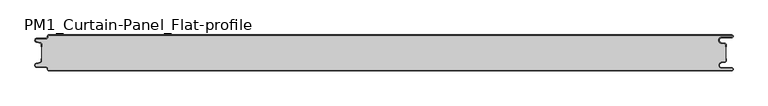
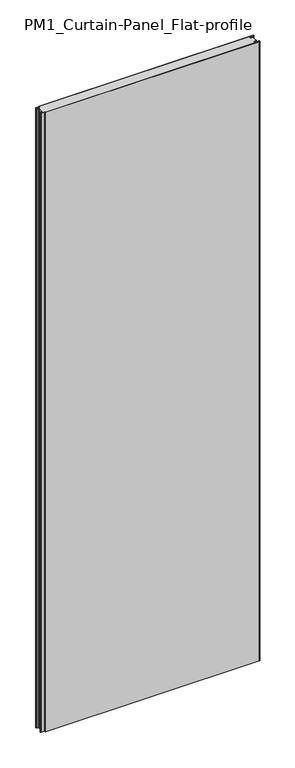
"""IFC4 building model written with IfcOpenShell, lengths in millimetres: plate geometry, PM1_Curtain-Panel_Flat-profile : ACH_PM1_Stone-wool-Panel_60M."""

from ifc_helpers import new_model, si_unit, point, frame_2d, origin, origin_with_axes, place, context, project, spatial, polyline, circle_curve, trimmed, segment, composite_curve, outline, extrude, source, transform, mapped, element, save


def pm1_curtain_panel_flat_profile_ea613ef7(model_context):
    return source(origin(), model_context, "Body", "SweptSolid", [
        extrude(outline(composite_curve([segment(polyline([(-562.4, 0.0), (583.1, 0.0)]), True, "CONTINUOUS"), segment(trimmed(circle_curve(frame_2d((583.1, -2.5)), 2.5), [point((583.1, 0.0))], [point((583.1, -5.0))], False, "CARTESIAN"), True, "CONTINUOUS"), segment(polyline([(583.1, -5.0), (566.1, -5.0)]), True, "CONTINUOUS"), segment(trimmed(circle_curve(frame_2d((566.1, -9.0)), 4.0), [point((566.1, -5.0))], [point((565.4054075, -12.939231))], True, "CARTESIAN"), True, "CONTINUOUS"), segment(polyline([(565.4054075, -12.939231), (571.8514851, -14.075848)]), True, "CONTINUOUS"), segment(trimmed(circle_curve(frame_2d((571.4, -16.636348)), 2.6), [point((571.8514851, -14.075848))], [point((574.0, -16.636348))], False, "CARTESIAN"), True, "CONTINUOUS"), segment(polyline([(574.0, -16.636348), (574.0, -20.0), (573.2, -20.0), (573.2, -16.636348)]), True, "CONTINUOUS"), segment(trimmed(circle_curve(frame_2d((571.4, -16.636348)), 1.8), [point((573.2, -16.636348))], [point((571.7125666, -14.863694))], True, "CARTESIAN"), True, "CONTINUOUS"), segment(polyline([(571.7125666, -14.863694), (565.266489, -13.7270771)]), True, "CONTINUOUS"), segment(trimmed(circle_curve(frame_2d((566.1, -9.0)), 4.8), [point((565.266489, -13.7270771))], [point((566.1, -4.2))], False, "CARTESIAN"), True, "CONTINUOUS"), segment(polyline([(566.1, -4.2), (583.1, -4.2)]), True, "CONTINUOUS"), segment(trimmed(circle_curve(frame_2d((583.1, -2.5)), 1.7), [point((583.1, -4.2))], [point((583.1, -0.8))], True, "CARTESIAN"), True, "CONTINUOUS"), segment(polyline([(583.1, -0.8), (-562.4, -0.8)]), True, "CONTINUOUS"), segment(trimmed(circle_curve(frame_2d((-562.4, -2.0)), 1.2), [point((-562.4, -0.8))], [point((-563.6, -2.0))], True, "CARTESIAN"), True, "CONTINUOUS"), segment(polyline([(-563.6, -2.0), (-563.6, -3.4)]), True, "CONTINUOUS"), segment(trimmed(circle_curve(frame_2d((-566.4, -3.4)), 2.8), [point((-563.6, -3.4))], [point((-566.4, -6.2))], False, "CARTESIAN"), True, "CONTINUOUS"), segment(polyline([(-566.4, -6.2), (-581.9, -6.2)]), True, "CONTINUOUS"), segment(trimmed(circle_curve(frame_2d((-581.9, -9.0)), 2.8), [point((-581.9, -6.2))], [point((-582.529863, -11.7282362))], True, "CARTESIAN"), True, "CONTINUOUS"), segment(polyline([(-582.529863, -11.7282362), (-576.370137, -13.150321)]), True, "CONTINUOUS"), segment(trimmed(circle_curve(frame_2d((-577.0, -15.878557)), 2.8), [point((-576.370137, -13.150321))], [point((-574.2, -15.878557))], False, "CARTESIAN"), True, "CONTINUOUS"), segment(polyline([(-574.2, -15.878557), (-574.2, -20.0), (-575.0, -20.0), (-575.0, -15.878557)]), True, "CONTINUOUS"), segment(trimmed(circle_curve(frame_2d((-577.0, -15.878557)), 2.0), [point((-575.0, -15.878557))], [point((-576.5500978, -13.9298169))], True, "CARTESIAN"), True, "CONTINUOUS"), segment(polyline([(-576.5500978, -13.9298169), (-582.7098239, -12.507732)]), True, "CONTINUOUS"), segment(trimmed(circle_curve(frame_2d((-581.9, -9.0)), 3.6), [point((-582.7098239, -12.507732))], [point((-581.9, -5.4))], False, "CARTESIAN"), True, "CONTINUOUS"), segment(polyline([(-581.9, -5.4), (-566.4, -5.4)]), True, "CONTINUOUS"), segment(trimmed(circle_curve(frame_2d((-566.4, -3.4)), 2.0), [point((-566.4, -5.4))], [point((-564.4, -3.4))], True, "CARTESIAN"), True, "CONTINUOUS"), segment(polyline([(-564.4, -3.4), (-564.4, -2.0)]), True, "CONTINUOUS"), segment(trimmed(circle_curve(frame_2d((-562.4, -2.0)), 2.0), [point((-564.4, -2.0))], [point((-562.4, 0.0))], False, "CARTESIAN"), True, "CONTINUOUS")], self_intersect=False)), origin_with_axes(), (0.0, 0.0, 1.0), 3500.0),
        extrude(outline(composite_curve([segment(polyline([(-574.2, -44.1214426), (-574.2, -15.8785573)]), True, "CONTINUOUS"), segment(trimmed(circle_curve(frame_2d((-577.0, -15.8785573)), 2.8), [point((-574.2, -15.8785573))], [point((-576.370137, -13.1503212))], True, "CARTESIAN"), True, "CONTINUOUS"), segment(polyline([(-576.370137, -13.1503212), (-582.5298631, -11.7282362)]), True, "CONTINUOUS"), segment(trimmed(circle_curve(frame_2d((-581.9, -9.0)), 2.8), [point((-582.5298631, -11.7282362))], [point((-581.9, -6.2))], False, "CARTESIAN"), True, "CONTINUOUS"), segment(polyline([(-581.9, -6.2), (-566.4000001, -6.2)]), True, "CONTINUOUS"), segment(trimmed(circle_curve(frame_2d((-566.4000001, -3.4)), 2.8), [point((-566.4000001, -6.2))], [point((-563.6000001, -3.4))], True, "CARTESIAN"), True, "CONTINUOUS"), segment(polyline([(-563.6000001, -3.4), (-563.6000001, -2.0)]), True, "CONTINUOUS"), segment(trimmed(circle_curve(frame_2d((-562.4000001, -2.0)), 1.2), [point((-563.6000001, -2.0))], [point((-562.4000001, -0.8))], False, "CARTESIAN"), True, "CONTINUOUS"), segment(polyline([(-562.4000001, -0.8), (583.1, -0.8)]), True, "CONTINUOUS"), segment(trimmed(circle_curve(frame_2d((583.1, -2.5)), 1.7), [point((583.1, -0.8))], [point((583.1, -4.2))], False, "CARTESIAN"), True, "CONTINUOUS"), segment(polyline([(583.1, -4.2), (566.1, -4.2)]), True, "CONTINUOUS"), segment(trimmed(circle_curve(frame_2d((566.1, -9.0)), 4.8), [point((566.1, -4.2))], [point((565.2664883, -13.7270771))], True, "CARTESIAN"), True, "CONTINUOUS"), segment(polyline([(565.2664883, -13.7270771), (571.7125668, -14.8636953)]), True, "CONTINUOUS"), segment(trimmed(circle_curve(frame_2d((571.4, -16.6363492)), 1.8), [point((571.7125668, -14.8636953))], [point((573.2, -16.6363492))], False, "CARTESIAN"), True, "CONTINUOUS"), segment(polyline([(573.2, -16.6363492), (573.2, -43.3636508)]), True, "CONTINUOUS"), segment(trimmed(circle_curve(frame_2d((571.4, -43.3636508)), 1.8), [point((573.2, -43.3636508))], [point((571.7125668, -45.1363047))], False, "CARTESIAN"), True, "CONTINUOUS"), segment(polyline([(571.7125668, -45.1363047), (565.2664883, -46.2729229)]), True, "CONTINUOUS"), segment(trimmed(circle_curve(frame_2d((566.1, -51.0)), 4.8), [point((565.2664883, -46.2729229))], [point((566.1, -55.8))], True, "CARTESIAN"), True, "CONTINUOUS"), segment(polyline([(566.1, -55.8), (583.1, -55.8)]), True, "CONTINUOUS"), segment(trimmed(circle_curve(frame_2d((583.1, -57.5)), 1.7), [point((583.1, -55.8))], [point((583.1, -59.2))], False, "CARTESIAN"), True, "CONTINUOUS"), segment(polyline([(583.1, -59.2), (-562.4000001, -59.2)]), True, "CONTINUOUS"), segment(trimmed(circle_curve(frame_2d((-562.4000001, -58.0)), 1.2), [point((-562.4000001, -59.2))], [point((-563.6000001, -58.0))], False, "CARTESIAN"), True, "CONTINUOUS"), segment(polyline([(-563.6000001, -58.0), (-563.6000001, -56.6)]), True, "CONTINUOUS"), segment(trimmed(circle_curve(frame_2d((-566.4000001, -56.6)), 2.8), [point((-563.6000001, -56.6))], [point((-566.4000001, -53.8))], True, "CARTESIAN"), True, "CONTINUOUS"), segment(polyline([(-566.4000001, -53.8), (-581.9, -53.8)]), True, "CONTINUOUS"), segment(trimmed(circle_curve(frame_2d((-581.9, -51.0)), 2.8), [point((-581.9, -53.8))], [point((-582.5298631, -48.2717638))], False, "CARTESIAN"), True, "CONTINUOUS"), segment(polyline([(-582.5298631, -48.2717638), (-576.370137, -46.8496788)]), True, "CONTINUOUS"), segment(trimmed(circle_curve(frame_2d((-577.0, -44.1214426)), 2.8), [point((-576.370137, -46.8496788))], [point((-574.2, -44.1214426))], True, "CARTESIAN"), True, "CONTINUOUS")], self_intersect=False)), origin_with_axes(), (0.0, 0.0, 1.0), 3500.0),
        extrude(outline(composite_curve([segment(polyline([(583.1, -60.0), (-562.4, -60.0)]), True, "CONTINUOUS"), segment(trimmed(circle_curve(frame_2d((-562.4, -58.0)), 2.0), [point((-562.4, -60.0))], [point((-564.4, -58.0))], False, "CARTESIAN"), True, "CONTINUOUS"), segment(polyline([(-564.4, -58.0), (-564.4, -56.6)]), True, "CONTINUOUS"), segment(trimmed(circle_curve(frame_2d((-566.4, -56.6)), 2.0), [point((-564.4, -56.6))], [point((-566.4, -54.6))], True, "CARTESIAN"), True, "CONTINUOUS"), segment(polyline([(-566.4, -54.6), (-581.9, -54.6)]), True, "CONTINUOUS"), segment(trimmed(circle_curve(frame_2d((-581.9, -51.0)), 3.6), [point((-581.9, -54.6))], [point((-582.7098239, -47.4922678))], False, "CARTESIAN"), True, "CONTINUOUS"), segment(polyline([(-582.7098239, -47.4922678), (-576.5500979, -46.070183)]), True, "CONTINUOUS"), segment(trimmed(circle_curve(frame_2d((-577.0, -44.121443)), 2.0), [point((-576.5500979, -46.070183))], [point((-575.0, -44.121443))], True, "CARTESIAN"), True, "CONTINUOUS"), segment(polyline([(-575.0, -44.121443), (-575.0, -40.0), (-574.2, -40.0), (-574.2, -44.121443)]), True, "CONTINUOUS"), segment(trimmed(circle_curve(frame_2d((-577.0, -44.121443)), 2.8), [point((-574.2, -44.121443))], [point((-576.370137, -46.8496792))], False, "CARTESIAN"), True, "CONTINUOUS"), segment(polyline([(-576.370137, -46.8496792), (-582.529863, -48.271764)]), True, "CONTINUOUS"), segment(trimmed(circle_curve(frame_2d((-581.9, -51.0)), 2.8), [point((-582.529863, -48.271764))], [point((-581.9, -53.8))], True, "CARTESIAN"), True, "CONTINUOUS"), segment(polyline([(-581.9, -53.8), (-566.4, -53.8)]), True, "CONTINUOUS"), segment(trimmed(circle_curve(frame_2d((-566.4, -56.6)), 2.8), [point((-566.4, -53.8))], [point((-563.6, -56.6))], False, "CARTESIAN"), True, "CONTINUOUS"), segment(polyline([(-563.6, -56.6), (-563.6, -58.0)]), True, "CONTINUOUS"), segment(trimmed(circle_curve(frame_2d((-562.4, -58.0)), 1.2), [point((-563.6, -58.0))], [point((-562.4, -59.2))], True, "CARTESIAN"), True, "CONTINUOUS"), segment(polyline([(-562.4, -59.2), (583.1, -59.2)]), True, "CONTINUOUS"), segment(trimmed(circle_curve(frame_2d((583.1, -57.5)), 1.7), [point((583.1, -59.2))], [point((583.1, -55.8))], True, "CARTESIAN"), True, "CONTINUOUS"), segment(polyline([(583.1, -55.8), (566.1, -55.8)]), True, "CONTINUOUS"), segment(trimmed(circle_curve(frame_2d((566.1, -51.0)), 4.8), [point((566.1, -55.8))], [point((565.266489, -46.2729227))], False, "CARTESIAN"), True, "CONTINUOUS"), segment(polyline([(565.266489, -46.2729227), (571.7125666, -45.1363058)]), True, "CONTINUOUS"), segment(trimmed(circle_curve(frame_2d((571.4, -43.363652)), 1.8), [point((571.7125666, -45.1363058))], [point((573.2, -43.363652))], True, "CARTESIAN"), True, "CONTINUOUS"), segment(polyline([(573.2, -43.363652), (573.2, -40.0), (574.0, -40.0), (574.0, -43.363652)]), True, "CONTINUOUS"), segment(trimmed(circle_curve(frame_2d((571.4, -43.363652)), 2.6), [point((574.0, -43.363652))], [point((571.8514851, -45.9241522))], False, "CARTESIAN"), True, "CONTINUOUS"), segment(polyline([(571.8514851, -45.9241522), (565.4054075, -47.0607691)]), True, "CONTINUOUS"), segment(trimmed(circle_curve(frame_2d((566.1, -51.0)), 4.0), [point((565.4054075, -47.0607691))], [point((566.1, -55.0))], True, "CARTESIAN"), True, "CONTINUOUS"), segment(polyline([(566.1, -55.0), (583.1, -55.0)]), True, "CONTINUOUS"), segment(trimmed(circle_curve(frame_2d((583.1, -57.5)), 2.5), [point((583.1, -55.0))], [point((583.1, -60.0))], False, "CARTESIAN"), True, "CONTINUOUS")], self_intersect=False)), origin_with_axes(), (0.0, 0.0, 1.0), 3500.0),
    ])


if __name__ == "__main__":
    model = new_model("IFC4")
    model_context = context("Model", 3, world=origin())
    ifc_project = project(units=[si_unit("LENGTHUNIT", "METRE", prefix="MILLI")], contexts=[model_context])
    site = spatial("IfcSite", under=ifc_project)
    building = spatial("IfcBuilding", under=site)
    placement = place(None, origin())
    pm1_curtain_panel_flat_profile_shape = pm1_curtain_panel_flat_profile_ea613ef7(model_context)
    element("IfcPlate", 1, ObjectType="PM1_Curtain-Panel_Flat-profile : ACH_PM1_Stone-wool-Panel_60M", at=placement, inside=building, context=model_context, shape_type="MappedRepresentation", body=[
        mapped(pm1_curtain_panel_flat_profile_shape, transform((0.0, 0.0, 0.0), x_axis=(1.0, 0.0, 0.0), y_axis=(0.0, 1.0, 0.0), z_axis=(0.0, 0.0, 1.0))),
    ])
    save(model, "model.ifc")
